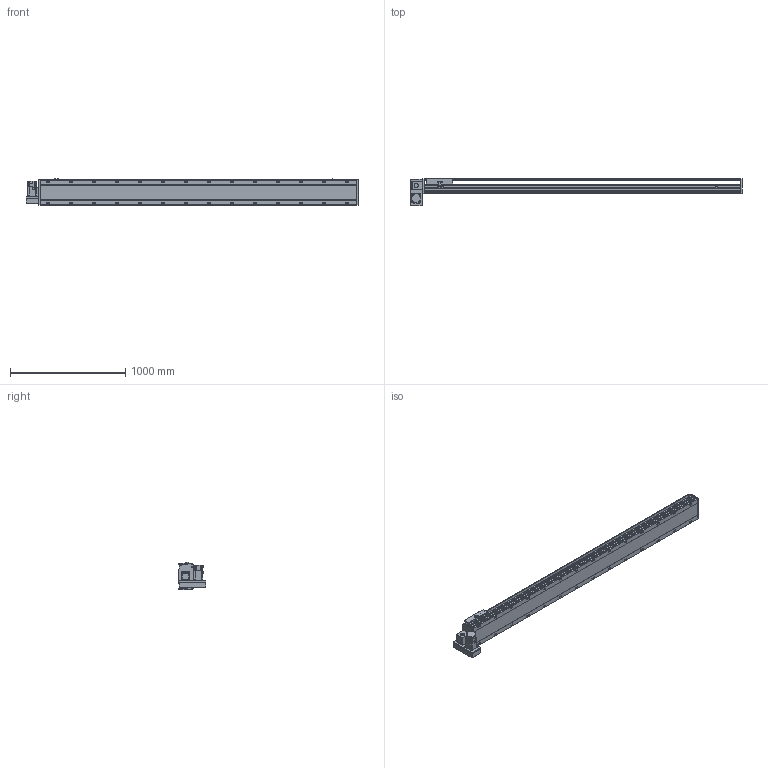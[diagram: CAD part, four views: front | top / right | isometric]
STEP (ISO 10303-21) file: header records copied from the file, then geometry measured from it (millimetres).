
FILE_DESCRIPTION(/* description */ ('STEP AP214'),/* implementation_level */ '2;1');
FILE_NAME(/* name */ 'PBS220-P40-S2400-LD-T75-C1-N(0)',/* time_stamp */ '2022-06-27T09:46:07+02:00',/* author */ ('License CC BY-ND 4.0'),/* organization */ ('CADENAS'),/* preprocessor_version */ 'ST-DEVELOPER v18.102',/* originating_system */ 'PARTsolutions',/* authorisation */ ' ');
FILE_SCHEMA (('AUTOMOTIVE_DESIGN {1 0 10303 214 3 1 1}'));
Length unit declared in the file: millimetre
Products named in the file (7): PBS220-P40-S2400-LD-T75-C1-N(0); PBS220_sensor; PBS220_plant; PBS220_sliser; T75-p1; PBS220T-LD_motors; PBS220-S2400()_body
Assembly tree (8 placements, depth 2):
  PBS220-P40-S2400-LD-T75-C1-N(0)
    PBS220_sensor  x3
    PBS220_plant
    PBS220_sliser
    T75-p1
    PBS220T-LD_motors
    PBS220-S2400()_body
Bounding box: 2884 x 239 x 238.5 mm (x, y, z)
Volume: 40315955.4 mm3; surface area: 3703465 mm2
Topology: 8 solids, 8 shells, 986 faces, 2564 edges, 1666 vertices
Faces by surface type: plane 622, cylinder 312, cone 52
Full cylindrical faces by diameter (mm): 2.013 x4, 4.5 x14, 4.917 x4, 6 x7, 6.647 x8, 8 x10, 8.376 x28, 8.5 x28, 10 x6, 14 x28, 38 x2, 40 x1, 70 x1
Entity records: 27500 total; most frequent: CARTESIAN_POINT 4888, DIRECTION 4779, ORIENTED_EDGE 4322, EDGE_CURVE 2161, AXIS2_PLACEMENT_3D 1711, VERTEX_POINT 1512, LINE 1357, VECTOR 1357
